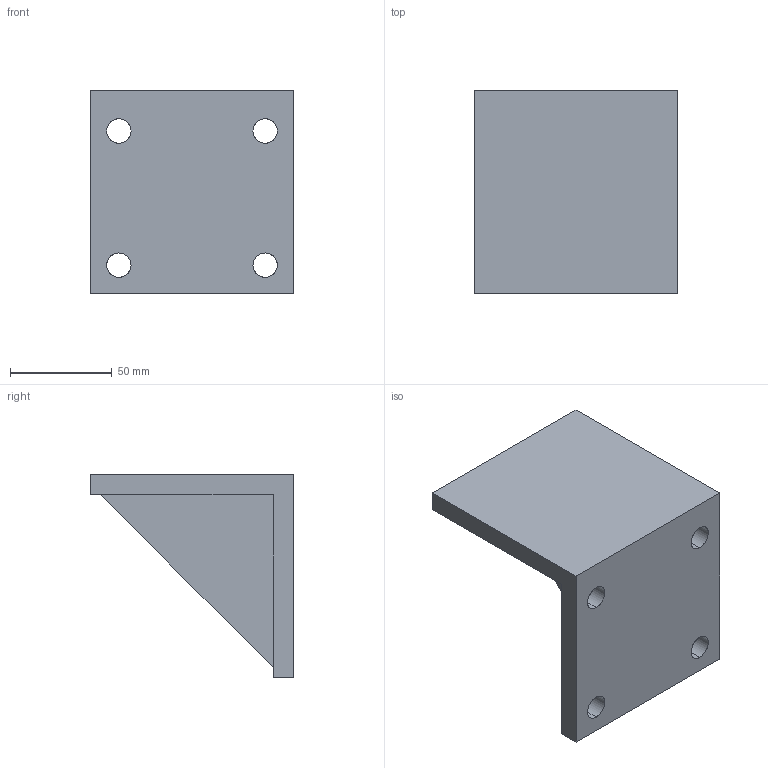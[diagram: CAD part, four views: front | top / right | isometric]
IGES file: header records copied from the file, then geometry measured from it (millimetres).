
Start section: SolidWorks IGES file using analytic representation for surfaces
Global section: file name: C:\Documents and Settings\Pc\Escritorio\Modelos 3D\Capítulo 5 (Estudio diseño)\OTROS\Ejercicio 7-1.IGS; native system: SolidWorks 2010; preprocessor: SolidWorks 2010; author: Pc; date: 100623.114207; units: millimetre
Bounding box: 100 x 100 x 100 mm (x, y, z)
Surface area: 50632.3 mm2 (no closed solid volume)
Topology: 0 solids, 0 shells, 19 faces, 342 edges, 342 vertices
Faces by surface type: bspline 11, revolution 8
